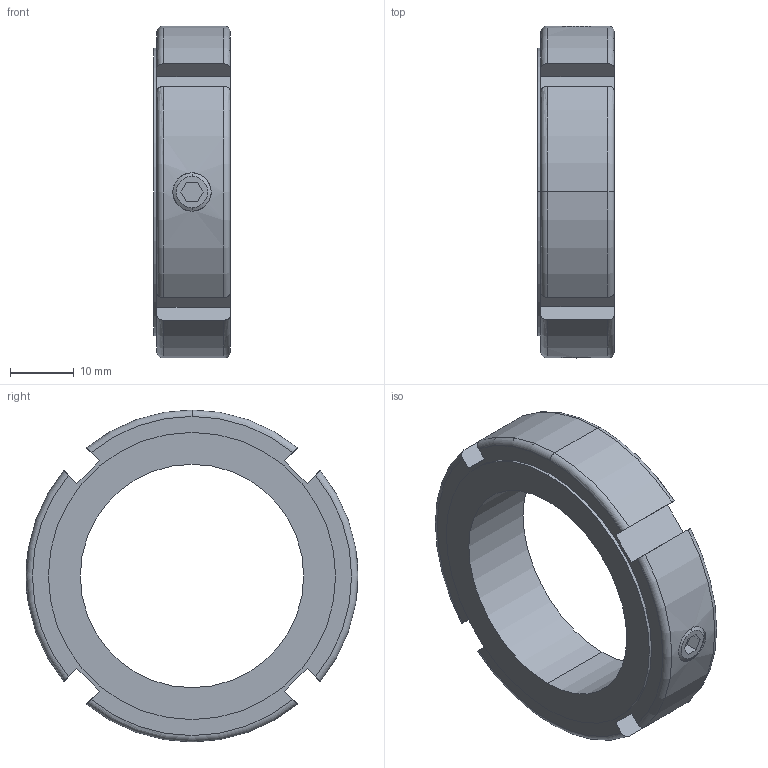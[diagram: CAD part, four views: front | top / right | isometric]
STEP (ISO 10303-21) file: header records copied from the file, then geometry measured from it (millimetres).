
FILE_DESCRIPTION (( 'STEP AP214' ), '1' );
FILE_NAME ('ZN35.STEP', '2020-02-28T04:34:40', ( '' ), ( '' ), 'SwSTEP 2.0', 'SolidWorks 2015', '' );
FILE_SCHEMA (( 'AUTOMOTIVE_DESIGN' ));
Length unit declared in the file: millimetre
Products named in the file (1): ZN35
Bounding box: 12 x 52 x 52 mm (x, y, z)
Volume: 12899 mm3; surface area: 5664 mm2
Topology: 1 solids, 1 shells, 58 faces, 147 edges, 96 vertices
Faces by surface type: plane 31, cylinder 13, torus 10, cone 4
Entity records: 2637 total; most frequent: CARTESIAN_POINT 562, ORIENTED_EDGE 294, DIRECTION 283, EDGE_CURVE 147, AXIS2_PLACEMENT_3D 97, VERTEX_POINT 96, VECTOR 89, LINE 89
